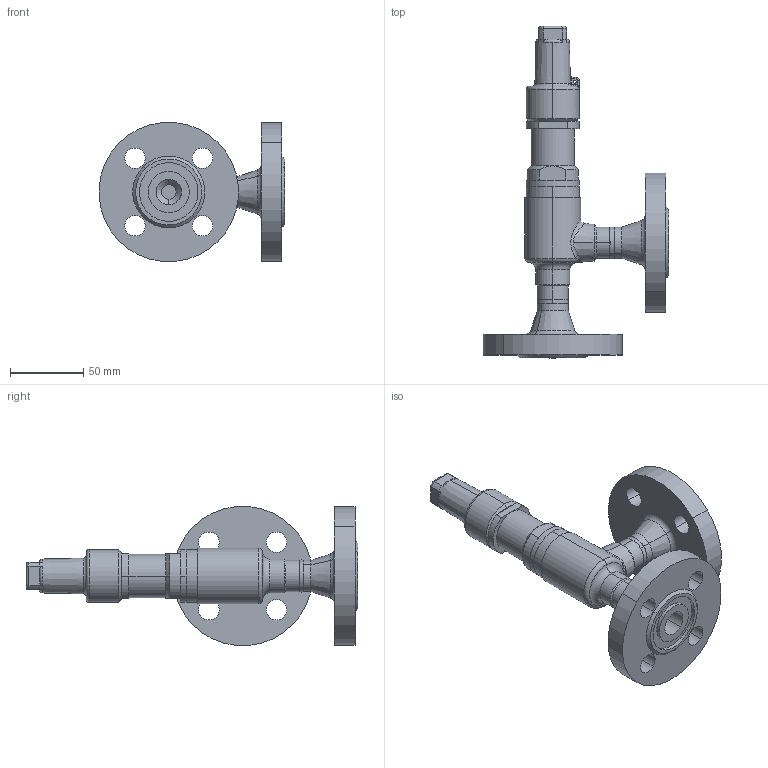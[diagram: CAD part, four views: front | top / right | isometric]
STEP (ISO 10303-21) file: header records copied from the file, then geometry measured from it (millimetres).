
FILE_DESCRIPTION (( 'STEP AP214' ), '1' );
FILE_NAME ('UVUB 42420C10-DN15-15_DIN-FL.STEP', '2010-09-10T08:03:52', ( 'Eckhard Grams' ), ( 'AWP Kälte Klima Armaturen GmbH' ), 'SwSTEP 2.0', 'SolidWorks 2002296', '' );
FILE_SCHEMA (( 'AUTOMOTIVE_DESIGN' ));
Length unit declared in the file: millimetre
Products named in the file (10): UVUB 42420C10-DN15-15_DIN-FL; Einstellschr 44551-07-8080002_DN 8-15_Standard; Deckel 44551-07-DN 8-15_PS40_Standard; Klemmring 44551-07-DN 8-15_Standard; Geh,kpl 42220E10-DN15-15_DIN-FL_PS40_Standard; bead Geh.kpl 42220-10-1_Standard; bead Geh.kpl 42220-10-2_Standard; Flansch-DIN2635-Nut_PS40_DIN-Flansch-DN015_PS40-Nut; Gehäuse42200E10-DN15-15_PS40_R1_Standard; Kappe 36302-10_DN6-15 (M27x1)_Standard
Assembly tree (10 placements, depth 3):
  UVUB 42420C10-DN15-15_DIN-FL
    Geh,kpl 42220E10-DN15-15_DIN-FL_PS40_Standard
      bead Geh.kpl 42220-10-2_Standard
      Flansch-DIN2635-Nut_PS40_DIN-Flansch-DN015_PS40-Nut  x2
      Gehäuse42200E10-DN15-15_PS40_R1_Standard
      bead Geh.kpl 42220-10-1_Standard
    Deckel 44551-07-DN 8-15_PS40_Standard
    Kappe 36302-10_DN6-15 (M27x1)_Standard
    Einstellschr 44551-07-8080002_DN 8-15_Standard
    Klemmring 44551-07-DN 8-15_Standard
Bounding box: 126.32 x 226 x 94.64 mm (x, y, z)
Volume: 300662.8 mm3; surface area: 93810 mm2
Topology: 9 solids, 9 shells, 307 faces, 686 edges, 415 vertices
Faces by surface type: cylinder 128, plane 61, cone 59, torus 32, bspline 27
Entity records: 23340 total; most frequent: CARTESIAN_POINT 16227, DIRECTION 1341, ORIENTED_EDGE 1228, EDGE_CURVE 614, AXIS2_PLACEMENT_3D 570, VERTEX_POINT 369, EDGE_LOOP 315, CIRCLE 308
